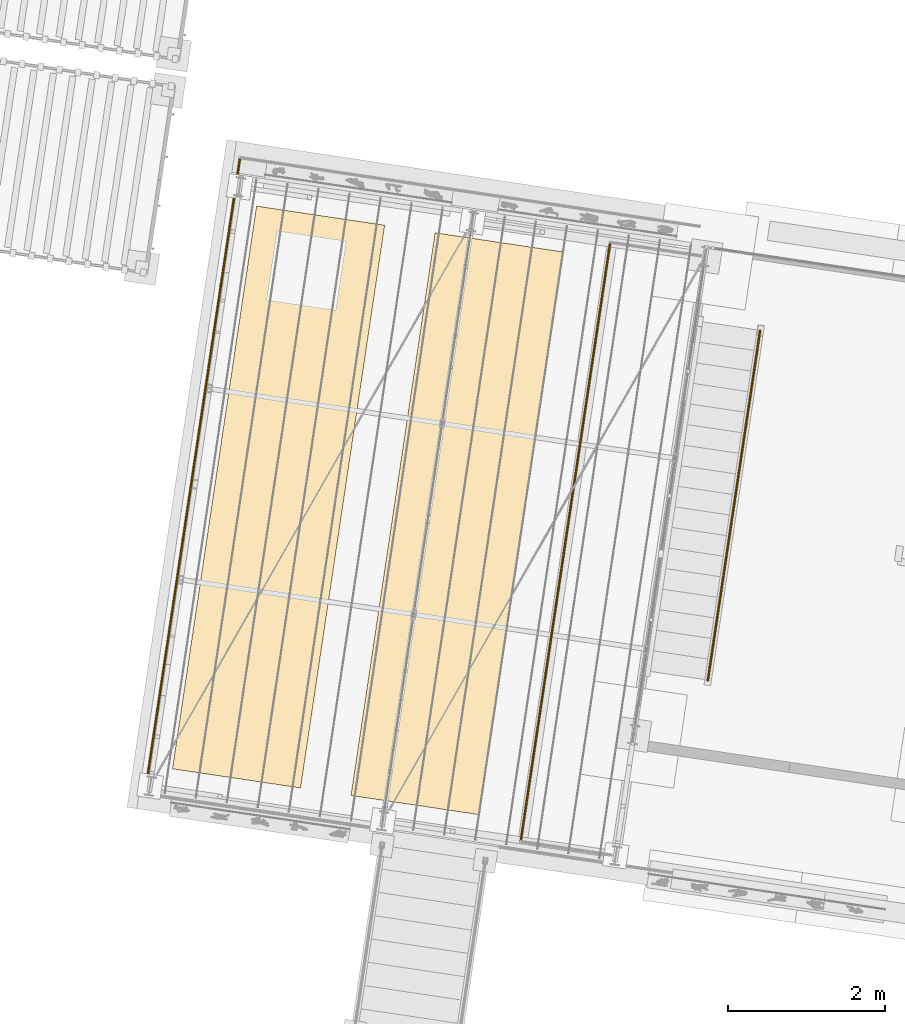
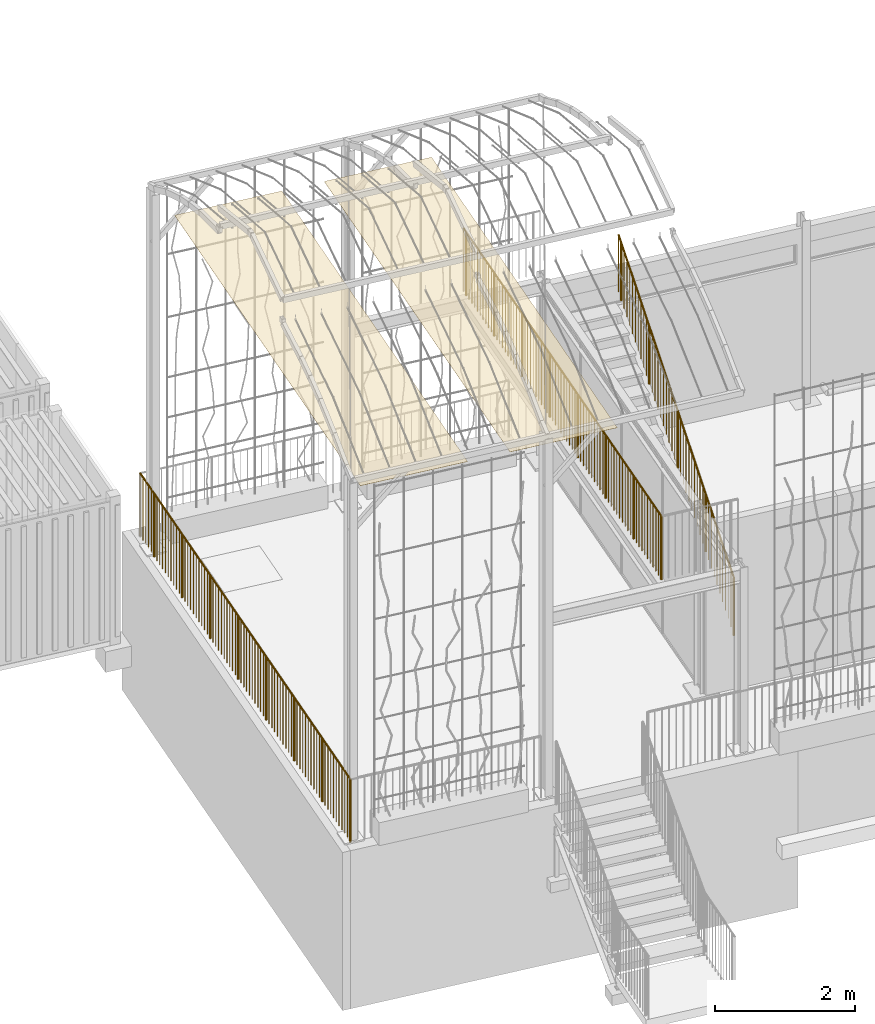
# One storey, part 133 of 142: 3 railings, 2 coverings, 3 elements without a shape of their own.
"""IFC4 building model written with IfcOpenShell, lengths in metres."""

from ifc_helpers import new_model, si_unit, direction, frame, origin_with_axes, place, context, subcontext, project, spatial, polyline, circle, outline, extrude, material, element, aggregate, save


model = new_model("IFC4")

# Units and contexts
model_context = context("Model", 3, precision=1e-05, world=origin_with_axes(), true_north=direction((0.0, 1.0)))
body_context = subcontext(model_context, "Body", "Model", "MODEL_VIEW")
ifc_project = project(units=[si_unit("VOLUMEUNIT", "CUBIC_METRE"), si_unit("LENGTHUNIT", "METRE"), si_unit("AREAUNIT", "SQUARE_METRE")], contexts=[model_context])

# Site, building, storey
site_placement = place(None, origin_with_axes())
site = spatial("IfcSite", under=ifc_project, at=site_placement, Name="Lares · Rua das Mercês · artigo 4771")
building_placement = place(site_placement, frame((12.0, 10.2, 13.9), z_axis=(0.0, 0.0, 1.0), x_axis=(0.989015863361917, -0.147809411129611, 0.0)))
building = spatial("IfcBuilding", under=site, at=building_placement, Name="Casa Sobreposta")
storey_placement = place(building_placement, origin_with_axes())
storey = spatial("IfcBuildingStorey", under=building, at=storey_placement, Name="00 · Habitação e estacionamento", Elevation=13.9)

# Stair, railing
stair_placement = place(storey_placement, origin_with_axes())
stair = element("IfcStair", 1, at=stair_placement, inside=storey, Name="Escada sala", PredefinedType="STRAIGHT_RUN_STAIR")
ifc_material_1 = material(Name="Aço pintado / Stahl lackiert", Category="steel")
railing_1_placement = place(stair_placement, origin_with_axes())
railing_1 = element("IfcRailing", 2, at=railing_1_placement, material=ifc_material_1, Name="Corrimão sala", PredefinedType="GUARDRAIL", context=body_context, shape_type="SweptSolid", body=[
    extrude(circle(Radius=0.015), frame((0.83, 0.9475, 1.18), z_axis=(0.0, 0.827216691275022, 0.561883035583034), x_axis=(1.0, 0.0, 0.0)), (0.0, 0.0, 1.0), 5.44597328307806),
    extrude(circle(Radius=0.0175), frame((0.83, 0.9475, 0.18), z_axis=(0.0, 0.0, 1.0), x_axis=(1.0, 0.0, 0.0)), (0.0, 0.0, 1.0), 1.0),
    extrude(circle(Radius=0.006), frame((0.83, 1.05737804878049, 0.254634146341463), z_axis=(0.0, 0.0, 1.0), x_axis=(1.0, 0.0, 0.0)), (0.0, 0.0, 1.0), 1.0),
    extrude(circle(Radius=0.006), frame((0.83, 1.16725609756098, 0.329268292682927), z_axis=(0.0, 0.0, 1.0), x_axis=(1.0, 0.0, 0.0)), (0.0, 0.0, 1.0), 1.0),
    extrude(circle(Radius=0.006), frame((0.83, 1.27713414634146, 0.40390243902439), z_axis=(0.0, 0.0, 1.0), x_axis=(1.0, 0.0, 0.0)), (0.0, 0.0, 1.0), 1.0),
    extrude(circle(Radius=0.006), frame((0.83, 1.38701219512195, 0.478536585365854), z_axis=(0.0, 0.0, 1.0), x_axis=(1.0, 0.0, 0.0)), (0.0, 0.0, 1.0), 1.0),
    extrude(circle(Radius=0.006), frame((0.83, 1.49689024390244, 0.553170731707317), z_axis=(0.0, 0.0, 1.0), x_axis=(1.0, 0.0, 0.0)), (0.0, 0.0, 1.0), 1.0),
    extrude(circle(Radius=0.006), frame((0.83, 1.60676829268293, 0.62780487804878), z_axis=(0.0, 0.0, 1.0), x_axis=(1.0, 0.0, 0.0)), (0.0, 0.0, 1.0), 1.0),
    extrude(circle(Radius=0.006), frame((0.83, 1.71664634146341, 0.702439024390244), z_axis=(0.0, 0.0, 1.0), x_axis=(1.0, 0.0, 0.0)), (0.0, 0.0, 1.0), 1.0),
    extrude(circle(Radius=0.006), frame((0.83, 1.8265243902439, 0.777073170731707), z_axis=(0.0, 0.0, 1.0), x_axis=(1.0, 0.0, 0.0)), (0.0, 0.0, 1.0), 1.0),
    extrude(circle(Radius=0.006), frame((0.83, 1.93640243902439, 0.851707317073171), z_axis=(0.0, 0.0, 1.0), x_axis=(1.0, 0.0, 0.0)), (0.0, 0.0, 1.0), 1.0),
    extrude(circle(Radius=0.0175), frame((0.83, 2.04628048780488, 0.926341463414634), z_axis=(0.0, 0.0, 1.0), x_axis=(1.0, 0.0, 0.0)), (0.0, 0.0, 1.0), 1.0),
    extrude(circle(Radius=0.006), frame((0.83, 2.15615853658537, 1.0009756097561), z_axis=(0.0, 0.0, 1.0), x_axis=(1.0, 0.0, 0.0)), (0.0, 0.0, 1.0), 1.0),
    extrude(circle(Radius=0.006), frame((0.83, 2.26603658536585, 1.07560975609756), z_axis=(0.0, 0.0, 1.0), x_axis=(1.0, 0.0, 0.0)), (0.0, 0.0, 1.0), 1.0),
    extrude(circle(Radius=0.006), frame((0.83, 2.37591463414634, 1.15024390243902), z_axis=(0.0, 0.0, 1.0), x_axis=(1.0, 0.0, 0.0)), (0.0, 0.0, 1.0), 1.0),
    extrude(circle(Radius=0.006), frame((0.83, 2.48579268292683, 1.22487804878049), z_axis=(0.0, 0.0, 1.0), x_axis=(1.0, 0.0, 0.0)), (0.0, 0.0, 1.0), 1.0),
    extrude(circle(Radius=0.006), frame((0.83, 2.59567073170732, 1.29951219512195), z_axis=(0.0, 0.0, 1.0), x_axis=(1.0, 0.0, 0.0)), (0.0, 0.0, 1.0), 1.0),
    extrude(circle(Radius=0.006), frame((0.83, 2.7055487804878, 1.37414634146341), z_axis=(0.0, 0.0, 1.0), x_axis=(1.0, 0.0, 0.0)), (0.0, 0.0, 1.0), 1.0),
    extrude(circle(Radius=0.006), frame((0.83, 2.81542682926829, 1.44878048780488), z_axis=(0.0, 0.0, 1.0), x_axis=(1.0, 0.0, 0.0)), (0.0, 0.0, 1.0), 1.0),
    extrude(circle(Radius=0.006), frame((0.83, 2.92530487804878, 1.52341463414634), z_axis=(0.0, 0.0, 1.0), x_axis=(1.0, 0.0, 0.0)), (0.0, 0.0, 1.0), 1.0),
    extrude(circle(Radius=0.006), frame((0.83, 3.03518292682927, 1.5980487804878), z_axis=(0.0, 0.0, 1.0), x_axis=(1.0, 0.0, 0.0)), (0.0, 0.0, 1.0), 1.0),
    extrude(circle(Radius=0.0175), frame((0.83, 3.14506097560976, 1.67268292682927), z_axis=(0.0, 0.0, 1.0), x_axis=(1.0, 0.0, 0.0)), (0.0, 0.0, 1.0), 1.0),
    extrude(circle(Radius=0.006), frame((0.83, 3.25493902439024, 1.74731707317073), z_axis=(0.0, 0.0, 1.0), x_axis=(1.0, 0.0, 0.0)), (0.0, 0.0, 1.0), 1.0),
    extrude(circle(Radius=0.006), frame((0.83, 3.36481707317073, 1.8219512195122), z_axis=(0.0, 0.0, 1.0), x_axis=(1.0, 0.0, 0.0)), (0.0, 0.0, 1.0), 1.0),
    extrude(circle(Radius=0.006), frame((0.83, 3.47469512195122, 1.89658536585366), z_axis=(0.0, 0.0, 1.0), x_axis=(1.0, 0.0, 0.0)), (0.0, 0.0, 1.0), 1.0),
    extrude(circle(Radius=0.006), frame((0.83, 3.58457317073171, 1.97121951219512), z_axis=(0.0, 0.0, 1.0), x_axis=(1.0, 0.0, 0.0)), (0.0, 0.0, 1.0), 1.0),
    extrude(circle(Radius=0.006), frame((0.83, 3.6944512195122, 2.04585365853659), z_axis=(0.0, 0.0, 1.0), x_axis=(1.0, 0.0, 0.0)), (0.0, 0.0, 1.0), 1.0),
    extrude(circle(Radius=0.006), frame((0.83, 3.80432926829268, 2.12048780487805), z_axis=(0.0, 0.0, 1.0), x_axis=(1.0, 0.0, 0.0)), (0.0, 0.0, 1.0), 1.0),
    extrude(circle(Radius=0.006), frame((0.83, 3.91420731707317, 2.19512195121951), z_axis=(0.0, 0.0, 1.0), x_axis=(1.0, 0.0, 0.0)), (0.0, 0.0, 1.0), 1.0),
    extrude(circle(Radius=0.006), frame((0.83, 4.02408536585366, 2.26975609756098), z_axis=(0.0, 0.0, 1.0), x_axis=(1.0, 0.0, 0.0)), (0.0, 0.0, 1.0), 1.0),
    extrude(circle(Radius=0.006), frame((0.83, 4.13396341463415, 2.34439024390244), z_axis=(0.0, 0.0, 1.0), x_axis=(1.0, 0.0, 0.0)), (0.0, 0.0, 1.0), 1.0),
    extrude(circle(Radius=0.0175), frame((0.83, 4.24384146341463, 2.4190243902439), z_axis=(0.0, 0.0, 1.0), x_axis=(1.0, 0.0, 0.0)), (0.0, 0.0, 1.0), 1.0),
    extrude(circle(Radius=0.006), frame((0.83, 4.35371951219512, 2.49365853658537), z_axis=(0.0, 0.0, 1.0), x_axis=(1.0, 0.0, 0.0)), (0.0, 0.0, 1.0), 1.0),
    extrude(circle(Radius=0.006), frame((0.83, 4.46359756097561, 2.56829268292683), z_axis=(0.0, 0.0, 1.0), x_axis=(1.0, 0.0, 0.0)), (0.0, 0.0, 1.0), 1.0),
    extrude(circle(Radius=0.006), frame((0.83, 4.5734756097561, 2.64292682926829), z_axis=(0.0, 0.0, 1.0), x_axis=(1.0, 0.0, 0.0)), (0.0, 0.0, 1.0), 1.0),
    extrude(circle(Radius=0.006), frame((0.83, 4.68335365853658, 2.71756097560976), z_axis=(0.0, 0.0, 1.0), x_axis=(1.0, 0.0, 0.0)), (0.0, 0.0, 1.0), 1.0),
    extrude(circle(Radius=0.006), frame((0.83, 4.79323170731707, 2.79219512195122), z_axis=(0.0, 0.0, 1.0), x_axis=(1.0, 0.0, 0.0)), (0.0, 0.0, 1.0), 1.0),
    extrude(circle(Radius=0.006), frame((0.83, 4.90310975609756, 2.86682926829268), z_axis=(0.0, 0.0, 1.0), x_axis=(1.0, 0.0, 0.0)), (0.0, 0.0, 1.0), 1.0),
    extrude(circle(Radius=0.006), frame((0.83, 5.01298780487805, 2.94146341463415), z_axis=(0.0, 0.0, 1.0), x_axis=(1.0, 0.0, 0.0)), (0.0, 0.0, 1.0), 1.0),
    extrude(circle(Radius=0.006), frame((0.83, 5.12286585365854, 3.01609756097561), z_axis=(0.0, 0.0, 1.0), x_axis=(1.0, 0.0, 0.0)), (0.0, 0.0, 1.0), 1.0),
    extrude(circle(Radius=0.006), frame((0.83, 5.23274390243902, 3.09073170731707), z_axis=(0.0, 0.0, 1.0), x_axis=(1.0, 0.0, 0.0)), (0.0, 0.0, 1.0), 1.0),
    extrude(circle(Radius=0.0175), frame((0.83, 5.34262195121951, 3.16536585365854), z_axis=(0.0, 0.0, 1.0), x_axis=(1.0, 0.0, 0.0)), (0.0, 0.0, 1.0), 1.0),
    extrude(circle(Radius=0.006), frame((0.83, 5.4525, 3.24), z_axis=(0.0, 0.0, 1.0), x_axis=(1.0, 0.0, 0.0)), (0.0, 0.0, 1.0), 1.0),
])
aggregate(stair, [railing_1])

# Assembly, railing
assembly_1_placement = place(storey_placement, origin_with_axes())
assembly_1 = element("IfcElementAssembly", 3, at=assembly_1_placement, inside=storey, Name="Pódio · projeção da estufa e cisterna", ObjectType="CISTERN_PODIUM", PredefinedType="USERDEFINED")
railing_2_placement = place(assembly_1_placement, origin_with_axes())
railing_2 = element("IfcRailing", 4, at=railing_2_placement, material=ifc_material_1, Name="Pódio · guarda poente", PredefinedType="GUARDRAIL", context=body_context, shape_type="SweptSolid", body=[
    extrude(circle(Radius=0.015), frame((-6.05, -1.55, 1.06), z_axis=(0.0, 1.0, 0.0), x_axis=(1.0, 0.0, 0.0)), (0.0, 0.0, 1.0), 8.2),
    extrude(circle(Radius=0.0175), frame((-6.05, -1.55, -0.04), z_axis=(0.0, 0.0, 1.0), x_axis=(1.0, 0.0, 0.0)), (0.0, 0.0, 1.0), 1.1),
    extrude(circle(Radius=0.006), frame((-6.05, -1.44066666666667, -0.04), z_axis=(0.0, 0.0, 1.0), x_axis=(1.0, 0.0, 0.0)), (0.0, 0.0, 1.0), 1.1),
    extrude(circle(Radius=0.006), frame((-6.05, -1.33133333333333, -0.04), z_axis=(0.0, 0.0, 1.0), x_axis=(1.0, 0.0, 0.0)), (0.0, 0.0, 1.0), 1.1),
    extrude(circle(Radius=0.006), frame((-6.05, -1.222, -0.04), z_axis=(0.0, 0.0, 1.0), x_axis=(1.0, 0.0, 0.0)), (0.0, 0.0, 1.0), 1.1),
    extrude(circle(Radius=0.006), frame((-6.05, -1.11266666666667, -0.04), z_axis=(0.0, 0.0, 1.0), x_axis=(1.0, 0.0, 0.0)), (0.0, 0.0, 1.0), 1.1),
    extrude(circle(Radius=0.006), frame((-6.05, -1.00333333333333, -0.04), z_axis=(0.0, 0.0, 1.0), x_axis=(1.0, 0.0, 0.0)), (0.0, 0.0, 1.0), 1.1),
    extrude(circle(Radius=0.006), frame((-6.05, -0.894, -0.04), z_axis=(0.0, 0.0, 1.0), x_axis=(1.0, 0.0, 0.0)), (0.0, 0.0, 1.0), 1.1),
    extrude(circle(Radius=0.006), frame((-6.05, -0.784666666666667, -0.04), z_axis=(0.0, 0.0, 1.0), x_axis=(1.0, 0.0, 0.0)), (0.0, 0.0, 1.0), 1.1),
    extrude(circle(Radius=0.006), frame((-6.05, -0.675333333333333, -0.04), z_axis=(0.0, 0.0, 1.0), x_axis=(1.0, 0.0, 0.0)), (0.0, 0.0, 1.0), 1.1),
    extrude(circle(Radius=0.006), frame((-6.05, -0.566, -0.04), z_axis=(0.0, 0.0, 1.0), x_axis=(1.0, 0.0, 0.0)), (0.0, 0.0, 1.0), 1.1),
    extrude(circle(Radius=0.0175), frame((-6.05, -0.456666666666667, -0.04), z_axis=(0.0, 0.0, 1.0), x_axis=(1.0, 0.0, 0.0)), (0.0, 0.0, 1.0), 1.1),
    extrude(circle(Radius=0.006), frame((-6.05, -0.347333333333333, -0.04), z_axis=(0.0, 0.0, 1.0), x_axis=(1.0, 0.0, 0.0)), (0.0, 0.0, 1.0), 1.1),
    extrude(circle(Radius=0.006), frame((-6.05, -0.238, -0.04), z_axis=(0.0, 0.0, 1.0), x_axis=(1.0, 0.0, 0.0)), (0.0, 0.0, 1.0), 1.1),
    extrude(circle(Radius=0.006), frame((-6.05, -0.128666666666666, -0.04), z_axis=(0.0, 0.0, 1.0), x_axis=(1.0, 0.0, 0.0)), (0.0, 0.0, 1.0), 1.1),
    extrude(circle(Radius=0.006), frame((-6.05, -0.0193333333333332, -0.04), z_axis=(0.0, 0.0, 1.0), x_axis=(1.0, 0.0, 0.0)), (0.0, 0.0, 1.0), 1.1),
    extrude(circle(Radius=0.006), frame((-6.05, 0.0900000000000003, -0.04), z_axis=(0.0, 0.0, 1.0), x_axis=(1.0, 0.0, 0.0)), (0.0, 0.0, 1.0), 1.1),
    extrude(circle(Radius=0.006), frame((-6.05, 0.199333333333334, -0.04), z_axis=(0.0, 0.0, 1.0), x_axis=(1.0, 0.0, 0.0)), (0.0, 0.0, 1.0), 1.1),
    extrude(circle(Radius=0.006), frame((-6.05, 0.308666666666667, -0.04), z_axis=(0.0, 0.0, 1.0), x_axis=(1.0, 0.0, 0.0)), (0.0, 0.0, 1.0), 1.1),
    extrude(circle(Radius=0.006), frame((-6.05, 0.418, -0.04), z_axis=(0.0, 0.0, 1.0), x_axis=(1.0, 0.0, 0.0)), (0.0, 0.0, 1.0), 1.1),
    extrude(circle(Radius=0.006), frame((-6.05, 0.527333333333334, -0.04), z_axis=(0.0, 0.0, 1.0), x_axis=(1.0, 0.0, 0.0)), (0.0, 0.0, 1.0), 1.1),
    extrude(circle(Radius=0.0175), frame((-6.05, 0.636666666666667, -0.04), z_axis=(0.0, 0.0, 1.0), x_axis=(1.0, 0.0, 0.0)), (0.0, 0.0, 1.0), 1.1),
    extrude(circle(Radius=0.006), frame((-6.05, 0.746000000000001, -0.04), z_axis=(0.0, 0.0, 1.0), x_axis=(1.0, 0.0, 0.0)), (0.0, 0.0, 1.0), 1.1),
    extrude(circle(Radius=0.006), frame((-6.05, 0.855333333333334, -0.04), z_axis=(0.0, 0.0, 1.0), x_axis=(1.0, 0.0, 0.0)), (0.0, 0.0, 1.0), 1.1),
    extrude(circle(Radius=0.006), frame((-6.05, 0.964666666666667, -0.04), z_axis=(0.0, 0.0, 1.0), x_axis=(1.0, 0.0, 0.0)), (0.0, 0.0, 1.0), 1.1),
    extrude(circle(Radius=0.006), frame((-6.05, 1.074, -0.04), z_axis=(0.0, 0.0, 1.0), x_axis=(1.0, 0.0, 0.0)), (0.0, 0.0, 1.0), 1.1),
    extrude(circle(Radius=0.006), frame((-6.05, 1.18333333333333, -0.04), z_axis=(0.0, 0.0, 1.0), x_axis=(1.0, 0.0, 0.0)), (0.0, 0.0, 1.0), 1.1),
    extrude(circle(Radius=0.006), frame((-6.05, 1.29266666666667, -0.04), z_axis=(0.0, 0.0, 1.0), x_axis=(1.0, 0.0, 0.0)), (0.0, 0.0, 1.0), 1.1),
    extrude(circle(Radius=0.006), frame((-6.05, 1.402, -0.04), z_axis=(0.0, 0.0, 1.0), x_axis=(1.0, 0.0, 0.0)), (0.0, 0.0, 1.0), 1.1),
    extrude(circle(Radius=0.006), frame((-6.05, 1.51133333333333, -0.04), z_axis=(0.0, 0.0, 1.0), x_axis=(1.0, 0.0, 0.0)), (0.0, 0.0, 1.0), 1.1),
    extrude(circle(Radius=0.006), frame((-6.05, 1.62066666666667, -0.04), z_axis=(0.0, 0.0, 1.0), x_axis=(1.0, 0.0, 0.0)), (0.0, 0.0, 1.0), 1.1),
    extrude(circle(Radius=0.0175), frame((-6.05, 1.73, -0.04), z_axis=(0.0, 0.0, 1.0), x_axis=(1.0, 0.0, 0.0)), (0.0, 0.0, 1.0), 1.1),
    extrude(circle(Radius=0.006), frame((-6.05, 1.83933333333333, -0.04), z_axis=(0.0, 0.0, 1.0), x_axis=(1.0, 0.0, 0.0)), (0.0, 0.0, 1.0), 1.1),
    extrude(circle(Radius=0.006), frame((-6.05, 1.94866666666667, -0.04), z_axis=(0.0, 0.0, 1.0), x_axis=(1.0, 0.0, 0.0)), (0.0, 0.0, 1.0), 1.1),
    extrude(circle(Radius=0.006), frame((-6.05, 2.058, -0.04), z_axis=(0.0, 0.0, 1.0), x_axis=(1.0, 0.0, 0.0)), (0.0, 0.0, 1.0), 1.1),
    extrude(circle(Radius=0.006), frame((-6.05, 2.16733333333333, -0.04), z_axis=(0.0, 0.0, 1.0), x_axis=(1.0, 0.0, 0.0)), (0.0, 0.0, 1.0), 1.1),
    extrude(circle(Radius=0.006), frame((-6.05, 2.27666666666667, -0.04), z_axis=(0.0, 0.0, 1.0), x_axis=(1.0, 0.0, 0.0)), (0.0, 0.0, 1.0), 1.1),
    extrude(circle(Radius=0.006), frame((-6.05, 2.386, -0.04), z_axis=(0.0, 0.0, 1.0), x_axis=(1.0, 0.0, 0.0)), (0.0, 0.0, 1.0), 1.1),
    extrude(circle(Radius=0.006), frame((-6.05, 2.49533333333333, -0.04), z_axis=(0.0, 0.0, 1.0), x_axis=(1.0, 0.0, 0.0)), (0.0, 0.0, 1.0), 1.1),
    extrude(circle(Radius=0.006), frame((-6.05, 2.60466666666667, -0.04), z_axis=(0.0, 0.0, 1.0), x_axis=(1.0, 0.0, 0.0)), (0.0, 0.0, 1.0), 1.1),
    extrude(circle(Radius=0.006), frame((-6.05, 2.714, -0.04), z_axis=(0.0, 0.0, 1.0), x_axis=(1.0, 0.0, 0.0)), (0.0, 0.0, 1.0), 1.1),
    extrude(circle(Radius=0.0175), frame((-6.05, 2.82333333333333, -0.04), z_axis=(0.0, 0.0, 1.0), x_axis=(1.0, 0.0, 0.0)), (0.0, 0.0, 1.0), 1.1),
    extrude(circle(Radius=0.006), frame((-6.05, 2.93266666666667, -0.04), z_axis=(0.0, 0.0, 1.0), x_axis=(1.0, 0.0, 0.0)), (0.0, 0.0, 1.0), 1.1),
    extrude(circle(Radius=0.006), frame((-6.05, 3.042, -0.04), z_axis=(0.0, 0.0, 1.0), x_axis=(1.0, 0.0, 0.0)), (0.0, 0.0, 1.0), 1.1),
    extrude(circle(Radius=0.006), frame((-6.05, 3.15133333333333, -0.04), z_axis=(0.0, 0.0, 1.0), x_axis=(1.0, 0.0, 0.0)), (0.0, 0.0, 1.0), 1.1),
    extrude(circle(Radius=0.006), frame((-6.05, 3.26066666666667, -0.04), z_axis=(0.0, 0.0, 1.0), x_axis=(1.0, 0.0, 0.0)), (0.0, 0.0, 1.0), 1.1),
    extrude(circle(Radius=0.006), frame((-6.05, 3.37, -0.04), z_axis=(0.0, 0.0, 1.0), x_axis=(1.0, 0.0, 0.0)), (0.0, 0.0, 1.0), 1.1),
    extrude(circle(Radius=0.006), frame((-6.05, 3.47933333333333, -0.04), z_axis=(0.0, 0.0, 1.0), x_axis=(1.0, 0.0, 0.0)), (0.0, 0.0, 1.0), 1.1),
    extrude(circle(Radius=0.006), frame((-6.05, 3.58866666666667, -0.04), z_axis=(0.0, 0.0, 1.0), x_axis=(1.0, 0.0, 0.0)), (0.0, 0.0, 1.0), 1.1),
    extrude(circle(Radius=0.006), frame((-6.05, 3.698, -0.04), z_axis=(0.0, 0.0, 1.0), x_axis=(1.0, 0.0, 0.0)), (0.0, 0.0, 1.0), 1.1),
    extrude(circle(Radius=0.006), frame((-6.05, 3.80733333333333, -0.04), z_axis=(0.0, 0.0, 1.0), x_axis=(1.0, 0.0, 0.0)), (0.0, 0.0, 1.0), 1.1),
    extrude(circle(Radius=0.0175), frame((-6.05, 3.91666666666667, -0.04), z_axis=(0.0, 0.0, 1.0), x_axis=(1.0, 0.0, 0.0)), (0.0, 0.0, 1.0), 1.1),
    extrude(circle(Radius=0.006), frame((-6.05, 4.026, -0.04), z_axis=(0.0, 0.0, 1.0), x_axis=(1.0, 0.0, 0.0)), (0.0, 0.0, 1.0), 1.1),
    extrude(circle(Radius=0.006), frame((-6.05, 4.13533333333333, -0.04), z_axis=(0.0, 0.0, 1.0), x_axis=(1.0, 0.0, 0.0)), (0.0, 0.0, 1.0), 1.1),
    extrude(circle(Radius=0.006), frame((-6.05, 4.24466666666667, -0.04), z_axis=(0.0, 0.0, 1.0), x_axis=(1.0, 0.0, 0.0)), (0.0, 0.0, 1.0), 1.1),
    extrude(circle(Radius=0.006), frame((-6.05, 4.354, -0.04), z_axis=(0.0, 0.0, 1.0), x_axis=(1.0, 0.0, 0.0)), (0.0, 0.0, 1.0), 1.1),
    extrude(circle(Radius=0.006), frame((-6.05, 4.46333333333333, -0.04), z_axis=(0.0, 0.0, 1.0), x_axis=(1.0, 0.0, 0.0)), (0.0, 0.0, 1.0), 1.1),
    extrude(circle(Radius=0.006), frame((-6.05, 4.57266666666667, -0.04), z_axis=(0.0, 0.0, 1.0), x_axis=(1.0, 0.0, 0.0)), (0.0, 0.0, 1.0), 1.1),
    extrude(circle(Radius=0.006), frame((-6.05, 4.682, -0.04), z_axis=(0.0, 0.0, 1.0), x_axis=(1.0, 0.0, 0.0)), (0.0, 0.0, 1.0), 1.1),
    extrude(circle(Radius=0.006), frame((-6.05, 4.79133333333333, -0.04), z_axis=(0.0, 0.0, 1.0), x_axis=(1.0, 0.0, 0.0)), (0.0, 0.0, 1.0), 1.1),
    extrude(circle(Radius=0.006), frame((-6.05, 4.90066666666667, -0.04), z_axis=(0.0, 0.0, 1.0), x_axis=(1.0, 0.0, 0.0)), (0.0, 0.0, 1.0), 1.1),
    extrude(circle(Radius=0.0175), frame((-6.05, 5.01, -0.04), z_axis=(0.0, 0.0, 1.0), x_axis=(1.0, 0.0, 0.0)), (0.0, 0.0, 1.0), 1.1),
    extrude(circle(Radius=0.006), frame((-6.05, 5.11933333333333, -0.04), z_axis=(0.0, 0.0, 1.0), x_axis=(1.0, 0.0, 0.0)), (0.0, 0.0, 1.0), 1.1),
    extrude(circle(Radius=0.006), frame((-6.05, 5.22866666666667, -0.04), z_axis=(0.0, 0.0, 1.0), x_axis=(1.0, 0.0, 0.0)), (0.0, 0.0, 1.0), 1.1),
    extrude(circle(Radius=0.006), frame((-6.05, 5.338, -0.04), z_axis=(0.0, 0.0, 1.0), x_axis=(1.0, 0.0, 0.0)), (0.0, 0.0, 1.0), 1.1),
    extrude(circle(Radius=0.006), frame((-6.05, 5.44733333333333, -0.04), z_axis=(0.0, 0.0, 1.0), x_axis=(1.0, 0.0, 0.0)), (0.0, 0.0, 1.0), 1.1),
    extrude(circle(Radius=0.006), frame((-6.05, 5.55666666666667, -0.04), z_axis=(0.0, 0.0, 1.0), x_axis=(1.0, 0.0, 0.0)), (0.0, 0.0, 1.0), 1.1),
    extrude(circle(Radius=0.006), frame((-6.05, 5.666, -0.04), z_axis=(0.0, 0.0, 1.0), x_axis=(1.0, 0.0, 0.0)), (0.0, 0.0, 1.0), 1.1),
    extrude(circle(Radius=0.006), frame((-6.05, 5.77533333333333, -0.04), z_axis=(0.0, 0.0, 1.0), x_axis=(1.0, 0.0, 0.0)), (0.0, 0.0, 1.0), 1.1),
    extrude(circle(Radius=0.006), frame((-6.05, 5.88466666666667, -0.04), z_axis=(0.0, 0.0, 1.0), x_axis=(1.0, 0.0, 0.0)), (0.0, 0.0, 1.0), 1.1),
    extrude(circle(Radius=0.006), frame((-6.05, 5.994, -0.04), z_axis=(0.0, 0.0, 1.0), x_axis=(1.0, 0.0, 0.0)), (0.0, 0.0, 1.0), 1.1),
    extrude(circle(Radius=0.0175), frame((-6.05, 6.10333333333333, -0.04), z_axis=(0.0, 0.0, 1.0), x_axis=(1.0, 0.0, 0.0)), (0.0, 0.0, 1.0), 1.1),
    extrude(circle(Radius=0.006), frame((-6.05, 6.21266666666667, -0.04), z_axis=(0.0, 0.0, 1.0), x_axis=(1.0, 0.0, 0.0)), (0.0, 0.0, 1.0), 1.1),
    extrude(circle(Radius=0.006), frame((-6.05, 6.322, -0.04), z_axis=(0.0, 0.0, 1.0), x_axis=(1.0, 0.0, 0.0)), (0.0, 0.0, 1.0), 1.1),
    extrude(circle(Radius=0.006), frame((-6.05, 6.43133333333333, -0.04), z_axis=(0.0, 0.0, 1.0), x_axis=(1.0, 0.0, 0.0)), (0.0, 0.0, 1.0), 1.1),
    extrude(circle(Radius=0.006), frame((-6.05, 6.54066666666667, -0.04), z_axis=(0.0, 0.0, 1.0), x_axis=(1.0, 0.0, 0.0)), (0.0, 0.0, 1.0), 1.1),
    extrude(circle(Radius=0.006), frame((-6.05, 6.65, -0.04), z_axis=(0.0, 0.0, 1.0), x_axis=(1.0, 0.0, 0.0)), (0.0, 0.0, 1.0), 1.1),
])
aggregate(assembly_1, [railing_2])

# Assembly, railing, coverings
assembly_2_placement = place(storey_placement, origin_with_axes())
assembly_2 = element("IfcElementAssembly", 5, at=assembly_2_placement, inside=storey, Name="Pérgola · prolongamento da estufa 6 m", ObjectType="PERGOLA_GREENHOUSE_EXTENSION", PredefinedType="USERDEFINED")
railing_3_placement = place(assembly_2_placement, origin_with_axes())
railing_3 = element("IfcRailing", 6, at=railing_3_placement, material=ifc_material_1, Name="Varanda · guarda", PredefinedType="GUARDRAIL", context=body_context, shape_type="SweptSolid", body=[
    extrude(circle(Radius=0.015), frame((-1.225, -1.44, 4.34), z_axis=(0.0, 1.0, 0.0), x_axis=(1.0, 0.0, 0.0)), (0.0, 0.0, 1.0), 7.72),
    extrude(circle(Radius=0.0175), frame((-1.225, -1.44, 3.24), z_axis=(0.0, 0.0, 1.0), x_axis=(1.0, 0.0, 0.0)), (0.0, 0.0, 1.0), 1.1),
    extrude(circle(Radius=0.006), frame((-1.225, -1.3312676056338, 3.24), z_axis=(0.0, 0.0, 1.0), x_axis=(1.0, 0.0, 0.0)), (0.0, 0.0, 1.0), 1.1),
    extrude(circle(Radius=0.006), frame((-1.225, -1.22253521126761, 3.24), z_axis=(0.0, 0.0, 1.0), x_axis=(1.0, 0.0, 0.0)), (0.0, 0.0, 1.0), 1.1),
    extrude(circle(Radius=0.006), frame((-1.225, -1.11380281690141, 3.24), z_axis=(0.0, 0.0, 1.0), x_axis=(1.0, 0.0, 0.0)), (0.0, 0.0, 1.0), 1.1),
    extrude(circle(Radius=0.006), frame((-1.225, -1.00507042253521, 3.24), z_axis=(0.0, 0.0, 1.0), x_axis=(1.0, 0.0, 0.0)), (0.0, 0.0, 1.0), 1.1),
    extrude(circle(Radius=0.006), frame((-1.225, -0.896338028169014, 3.24), z_axis=(0.0, 0.0, 1.0), x_axis=(1.0, 0.0, 0.0)), (0.0, 0.0, 1.0), 1.1),
    extrude(circle(Radius=0.006), frame((-1.225, -0.787605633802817, 3.24), z_axis=(0.0, 0.0, 1.0), x_axis=(1.0, 0.0, 0.0)), (0.0, 0.0, 1.0), 1.1),
    extrude(circle(Radius=0.006), frame((-1.225, -0.67887323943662, 3.24), z_axis=(0.0, 0.0, 1.0), x_axis=(1.0, 0.0, 0.0)), (0.0, 0.0, 1.0), 1.1),
    extrude(circle(Radius=0.006), frame((-1.225, -0.570140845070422, 3.24), z_axis=(0.0, 0.0, 1.0), x_axis=(1.0, 0.0, 0.0)), (0.0, 0.0, 1.0), 1.1),
    extrude(circle(Radius=0.006), frame((-1.225, -0.461408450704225, 3.24), z_axis=(0.0, 0.0, 1.0), x_axis=(1.0, 0.0, 0.0)), (0.0, 0.0, 1.0), 1.1),
    extrude(circle(Radius=0.0175), frame((-1.225, -0.352676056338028, 3.24), z_axis=(0.0, 0.0, 1.0), x_axis=(1.0, 0.0, 0.0)), (0.0, 0.0, 1.0), 1.1),
    extrude(circle(Radius=0.006), frame((-1.225, -0.243943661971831, 3.24), z_axis=(0.0, 0.0, 1.0), x_axis=(1.0, 0.0, 0.0)), (0.0, 0.0, 1.0), 1.1),
    extrude(circle(Radius=0.006), frame((-1.225, -0.135211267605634, 3.24), z_axis=(0.0, 0.0, 1.0), x_axis=(1.0, 0.0, 0.0)), (0.0, 0.0, 1.0), 1.1),
    extrude(circle(Radius=0.006), frame((-1.225, -0.0264788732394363, 3.24), z_axis=(0.0, 0.0, 1.0), x_axis=(1.0, 0.0, 0.0)), (0.0, 0.0, 1.0), 1.1),
    extrude(circle(Radius=0.006), frame((-1.225, 0.0822535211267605, 3.24), z_axis=(0.0, 0.0, 1.0), x_axis=(1.0, 0.0, 0.0)), (0.0, 0.0, 1.0), 1.1),
    extrude(circle(Radius=0.006), frame((-1.225, 0.190985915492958, 3.24), z_axis=(0.0, 0.0, 1.0), x_axis=(1.0, 0.0, 0.0)), (0.0, 0.0, 1.0), 1.1),
    extrude(circle(Radius=0.006), frame((-1.225, 0.299718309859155, 3.24), z_axis=(0.0, 0.0, 1.0), x_axis=(1.0, 0.0, 0.0)), (0.0, 0.0, 1.0), 1.1),
    extrude(circle(Radius=0.006), frame((-1.225, 0.408450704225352, 3.24), z_axis=(0.0, 0.0, 1.0), x_axis=(1.0, 0.0, 0.0)), (0.0, 0.0, 1.0), 1.1),
    extrude(circle(Radius=0.006), frame((-1.225, 0.51718309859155, 3.24), z_axis=(0.0, 0.0, 1.0), x_axis=(1.0, 0.0, 0.0)), (0.0, 0.0, 1.0), 1.1),
    extrude(circle(Radius=0.006), frame((-1.225, 0.625915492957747, 3.24), z_axis=(0.0, 0.0, 1.0), x_axis=(1.0, 0.0, 0.0)), (0.0, 0.0, 1.0), 1.1),
    extrude(circle(Radius=0.0175), frame((-1.225, 0.734647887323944, 3.24), z_axis=(0.0, 0.0, 1.0), x_axis=(1.0, 0.0, 0.0)), (0.0, 0.0, 1.0), 1.1),
    extrude(circle(Radius=0.006), frame((-1.225, 0.843380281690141, 3.24), z_axis=(0.0, 0.0, 1.0), x_axis=(1.0, 0.0, 0.0)), (0.0, 0.0, 1.0), 1.1),
    extrude(circle(Radius=0.006), frame((-1.225, 0.952112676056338, 3.24), z_axis=(0.0, 0.0, 1.0), x_axis=(1.0, 0.0, 0.0)), (0.0, 0.0, 1.0), 1.1),
    extrude(circle(Radius=0.006), frame((-1.225, 1.06084507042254, 3.24), z_axis=(0.0, 0.0, 1.0), x_axis=(1.0, 0.0, 0.0)), (0.0, 0.0, 1.0), 1.1),
    extrude(circle(Radius=0.006), frame((-1.225, 1.16957746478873, 3.24), z_axis=(0.0, 0.0, 1.0), x_axis=(1.0, 0.0, 0.0)), (0.0, 0.0, 1.0), 1.1),
    extrude(circle(Radius=0.006), frame((-1.225, 1.27830985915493, 3.24), z_axis=(0.0, 0.0, 1.0), x_axis=(1.0, 0.0, 0.0)), (0.0, 0.0, 1.0), 1.1),
    extrude(circle(Radius=0.006), frame((-1.225, 1.38704225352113, 3.24), z_axis=(0.0, 0.0, 1.0), x_axis=(1.0, 0.0, 0.0)), (0.0, 0.0, 1.0), 1.1),
    extrude(circle(Radius=0.006), frame((-1.225, 1.49577464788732, 3.24), z_axis=(0.0, 0.0, 1.0), x_axis=(1.0, 0.0, 0.0)), (0.0, 0.0, 1.0), 1.1),
    extrude(circle(Radius=0.006), frame((-1.225, 1.60450704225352, 3.24), z_axis=(0.0, 0.0, 1.0), x_axis=(1.0, 0.0, 0.0)), (0.0, 0.0, 1.0), 1.1),
    extrude(circle(Radius=0.006), frame((-1.225, 1.71323943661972, 3.24), z_axis=(0.0, 0.0, 1.0), x_axis=(1.0, 0.0, 0.0)), (0.0, 0.0, 1.0), 1.1),
    extrude(circle(Radius=0.0175), frame((-1.225, 1.82197183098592, 3.24), z_axis=(0.0, 0.0, 1.0), x_axis=(1.0, 0.0, 0.0)), (0.0, 0.0, 1.0), 1.1),
    extrude(circle(Radius=0.006), frame((-1.225, 1.93070422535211, 3.24), z_axis=(0.0, 0.0, 1.0), x_axis=(1.0, 0.0, 0.0)), (0.0, 0.0, 1.0), 1.1),
    extrude(circle(Radius=0.006), frame((-1.225, 2.03943661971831, 3.24), z_axis=(0.0, 0.0, 1.0), x_axis=(1.0, 0.0, 0.0)), (0.0, 0.0, 1.0), 1.1),
    extrude(circle(Radius=0.006), frame((-1.225, 2.14816901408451, 3.24), z_axis=(0.0, 0.0, 1.0), x_axis=(1.0, 0.0, 0.0)), (0.0, 0.0, 1.0), 1.1),
    extrude(circle(Radius=0.006), frame((-1.225, 2.2569014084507, 3.24), z_axis=(0.0, 0.0, 1.0), x_axis=(1.0, 0.0, 0.0)), (0.0, 0.0, 1.0), 1.1),
    extrude(circle(Radius=0.006), frame((-1.225, 2.3656338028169, 3.24), z_axis=(0.0, 0.0, 1.0), x_axis=(1.0, 0.0, 0.0)), (0.0, 0.0, 1.0), 1.1),
    extrude(circle(Radius=0.006), frame((-1.225, 2.4743661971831, 3.24), z_axis=(0.0, 0.0, 1.0), x_axis=(1.0, 0.0, 0.0)), (0.0, 0.0, 1.0), 1.1),
    extrude(circle(Radius=0.006), frame((-1.225, 2.5830985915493, 3.24), z_axis=(0.0, 0.0, 1.0), x_axis=(1.0, 0.0, 0.0)), (0.0, 0.0, 1.0), 1.1),
    extrude(circle(Radius=0.006), frame((-1.225, 2.69183098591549, 3.24), z_axis=(0.0, 0.0, 1.0), x_axis=(1.0, 0.0, 0.0)), (0.0, 0.0, 1.0), 1.1),
    extrude(circle(Radius=0.006), frame((-1.225, 2.80056338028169, 3.24), z_axis=(0.0, 0.0, 1.0), x_axis=(1.0, 0.0, 0.0)), (0.0, 0.0, 1.0), 1.1),
    extrude(circle(Radius=0.0175), frame((-1.225, 2.90929577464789, 3.24), z_axis=(0.0, 0.0, 1.0), x_axis=(1.0, 0.0, 0.0)), (0.0, 0.0, 1.0), 1.1),
    extrude(circle(Radius=0.006), frame((-1.225, 3.01802816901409, 3.24), z_axis=(0.0, 0.0, 1.0), x_axis=(1.0, 0.0, 0.0)), (0.0, 0.0, 1.0), 1.1),
    extrude(circle(Radius=0.006), frame((-1.225, 3.12676056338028, 3.24), z_axis=(0.0, 0.0, 1.0), x_axis=(1.0, 0.0, 0.0)), (0.0, 0.0, 1.0), 1.1),
    extrude(circle(Radius=0.006), frame((-1.225, 3.23549295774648, 3.24), z_axis=(0.0, 0.0, 1.0), x_axis=(1.0, 0.0, 0.0)), (0.0, 0.0, 1.0), 1.1),
    extrude(circle(Radius=0.006), frame((-1.225, 3.34422535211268, 3.24), z_axis=(0.0, 0.0, 1.0), x_axis=(1.0, 0.0, 0.0)), (0.0, 0.0, 1.0), 1.1),
    extrude(circle(Radius=0.006), frame((-1.225, 3.45295774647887, 3.24), z_axis=(0.0, 0.0, 1.0), x_axis=(1.0, 0.0, 0.0)), (0.0, 0.0, 1.0), 1.1),
    extrude(circle(Radius=0.006), frame((-1.225, 3.56169014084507, 3.24), z_axis=(0.0, 0.0, 1.0), x_axis=(1.0, 0.0, 0.0)), (0.0, 0.0, 1.0), 1.1),
    extrude(circle(Radius=0.006), frame((-1.225, 3.67042253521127, 3.24), z_axis=(0.0, 0.0, 1.0), x_axis=(1.0, 0.0, 0.0)), (0.0, 0.0, 1.0), 1.1),
    extrude(circle(Radius=0.006), frame((-1.225, 3.77915492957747, 3.24), z_axis=(0.0, 0.0, 1.0), x_axis=(1.0, 0.0, 0.0)), (0.0, 0.0, 1.0), 1.1),
    extrude(circle(Radius=0.006), frame((-1.225, 3.88788732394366, 3.24), z_axis=(0.0, 0.0, 1.0), x_axis=(1.0, 0.0, 0.0)), (0.0, 0.0, 1.0), 1.1),
    extrude(circle(Radius=0.0175), frame((-1.225, 3.99661971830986, 3.24), z_axis=(0.0, 0.0, 1.0), x_axis=(1.0, 0.0, 0.0)), (0.0, 0.0, 1.0), 1.1),
    extrude(circle(Radius=0.006), frame((-1.225, 4.10535211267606, 3.24), z_axis=(0.0, 0.0, 1.0), x_axis=(1.0, 0.0, 0.0)), (0.0, 0.0, 1.0), 1.1),
    extrude(circle(Radius=0.006), frame((-1.225, 4.21408450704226, 3.24), z_axis=(0.0, 0.0, 1.0), x_axis=(1.0, 0.0, 0.0)), (0.0, 0.0, 1.0), 1.1),
    extrude(circle(Radius=0.006), frame((-1.225, 4.32281690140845, 3.24), z_axis=(0.0, 0.0, 1.0), x_axis=(1.0, 0.0, 0.0)), (0.0, 0.0, 1.0), 1.1),
    extrude(circle(Radius=0.006), frame((-1.225, 4.43154929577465, 3.24), z_axis=(0.0, 0.0, 1.0), x_axis=(1.0, 0.0, 0.0)), (0.0, 0.0, 1.0), 1.1),
    extrude(circle(Radius=0.006), frame((-1.225, 4.54028169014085, 3.24), z_axis=(0.0, 0.0, 1.0), x_axis=(1.0, 0.0, 0.0)), (0.0, 0.0, 1.0), 1.1),
    extrude(circle(Radius=0.006), frame((-1.225, 4.64901408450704, 3.24), z_axis=(0.0, 0.0, 1.0), x_axis=(1.0, 0.0, 0.0)), (0.0, 0.0, 1.0), 1.1),
    extrude(circle(Radius=0.006), frame((-1.225, 4.75774647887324, 3.24), z_axis=(0.0, 0.0, 1.0), x_axis=(1.0, 0.0, 0.0)), (0.0, 0.0, 1.0), 1.1),
    extrude(circle(Radius=0.006), frame((-1.225, 4.86647887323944, 3.24), z_axis=(0.0, 0.0, 1.0), x_axis=(1.0, 0.0, 0.0)), (0.0, 0.0, 1.0), 1.1),
    extrude(circle(Radius=0.006), frame((-1.225, 4.97521126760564, 3.24), z_axis=(0.0, 0.0, 1.0), x_axis=(1.0, 0.0, 0.0)), (0.0, 0.0, 1.0), 1.1),
    extrude(circle(Radius=0.0175), frame((-1.225, 5.08394366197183, 3.24), z_axis=(0.0, 0.0, 1.0), x_axis=(1.0, 0.0, 0.0)), (0.0, 0.0, 1.0), 1.1),
    extrude(circle(Radius=0.006), frame((-1.225, 5.19267605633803, 3.24), z_axis=(0.0, 0.0, 1.0), x_axis=(1.0, 0.0, 0.0)), (0.0, 0.0, 1.0), 1.1),
    extrude(circle(Radius=0.006), frame((-1.225, 5.30140845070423, 3.24), z_axis=(0.0, 0.0, 1.0), x_axis=(1.0, 0.0, 0.0)), (0.0, 0.0, 1.0), 1.1),
    extrude(circle(Radius=0.006), frame((-1.225, 5.41014084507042, 3.24), z_axis=(0.0, 0.0, 1.0), x_axis=(1.0, 0.0, 0.0)), (0.0, 0.0, 1.0), 1.1),
    extrude(circle(Radius=0.006), frame((-1.225, 5.51887323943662, 3.24), z_axis=(0.0, 0.0, 1.0), x_axis=(1.0, 0.0, 0.0)), (0.0, 0.0, 1.0), 1.1),
    extrude(circle(Radius=0.006), frame((-1.225, 5.62760563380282, 3.24), z_axis=(0.0, 0.0, 1.0), x_axis=(1.0, 0.0, 0.0)), (0.0, 0.0, 1.0), 1.1),
    extrude(circle(Radius=0.006), frame((-1.225, 5.73633802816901, 3.24), z_axis=(0.0, 0.0, 1.0), x_axis=(1.0, 0.0, 0.0)), (0.0, 0.0, 1.0), 1.1),
    extrude(circle(Radius=0.006), frame((-1.225, 5.84507042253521, 3.24), z_axis=(0.0, 0.0, 1.0), x_axis=(1.0, 0.0, 0.0)), (0.0, 0.0, 1.0), 1.1),
    extrude(circle(Radius=0.006), frame((-1.225, 5.95380281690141, 3.24), z_axis=(0.0, 0.0, 1.0), x_axis=(1.0, 0.0, 0.0)), (0.0, 0.0, 1.0), 1.1),
    extrude(circle(Radius=0.006), frame((-1.225, 6.06253521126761, 3.24), z_axis=(0.0, 0.0, 1.0), x_axis=(1.0, 0.0, 0.0)), (0.0, 0.0, 1.0), 1.1),
    extrude(circle(Radius=0.0175), frame((-1.225, 6.1712676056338, 3.24), z_axis=(0.0, 0.0, 1.0), x_axis=(1.0, 0.0, 0.0)), (0.0, 0.0, 1.0), 1.1),
    extrude(circle(Radius=0.006), frame((-1.225, 6.28, 3.24), z_axis=(0.0, 0.0, 1.0), x_axis=(1.0, 0.0, 0.0)), (0.0, 0.0, 1.0), 1.1),
])
ifc_material_2 = material(Name="Tecido de sombreamento — hipótese", Category="fabric")
covering_1_placement = place(assembly_2_placement, frame((0.0, 0.0, 5.86), z_axis=(0.0, 0.0, 1.0), x_axis=(1.0, 0.0, 0.0)))
covering_1 = element("IfcCovering", 7, at=covering_1_placement, material=ifc_material_2, Name="Pátio · sombreador têxtil retrátil", ObjectType="Pátio · sombreador têxtil retrátil", PredefinedType="USERDEFINED", context=body_context, shape_type="SweptSolid", body=[
    extrude(outline(polyline([(-4.1, -1.18), (-4.1, 6.07), (-5.75, 6.07), (-5.75, -1.18), (-4.1, -1.18)])), origin_with_axes(), (0.0, 0.0, 1.0), 0.004),
])
covering_2_placement = place(assembly_2_placement, frame((0.0, 0.0, 5.86), z_axis=(0.0, 0.0, 1.0), x_axis=(1.0, 0.0, 0.0)))
covering_2 = element("IfcCovering", 8, at=covering_2_placement, material=ifc_material_2, Name="Pátio · sombreador têxtil retrátil", ObjectType="Pátio · sombreador têxtil retrátil", PredefinedType="USERDEFINED", context=body_context, shape_type="SweptSolid", body=[
    extrude(outline(polyline([(-1.8, -1.18), (-1.8, 6.07), (-3.45, 6.07), (-3.45, -1.18), (-1.8, -1.18)])), origin_with_axes(), (0.0, 0.0, 1.0), 0.004),
])
aggregate(assembly_2, [railing_3, covering_1, covering_2])

save(model, "model.ifc")
